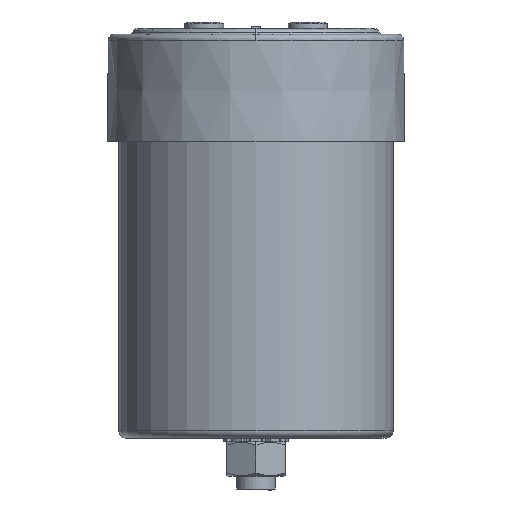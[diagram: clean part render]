
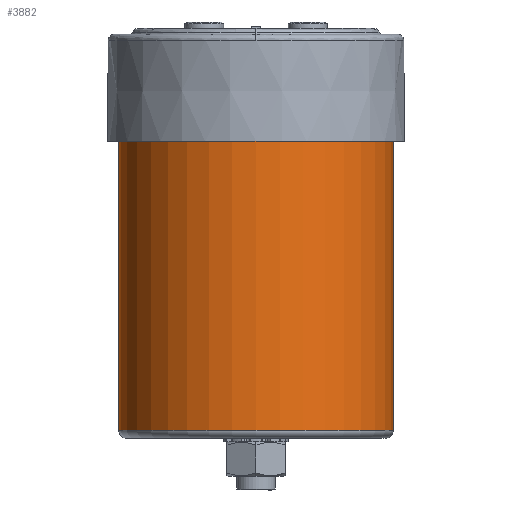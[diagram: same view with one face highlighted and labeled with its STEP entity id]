
A CAD part, left-side view. The second image highlights one B-rep face of the part: STEP entity #3882.
In plain terms, the highlighted cylindrical face has radius 42.5 mm (diameter 85 mm), a partial arc.
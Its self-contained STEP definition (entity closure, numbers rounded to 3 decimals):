
#376 = DIRECTION ( 'NONE',  ( 0., 0., 1. ) ) ;
#1580 = VERTEX_POINT ( 'NONE', #1766 ) ;
#1623 = FACE_OUTER_BOUND ( 'NONE', #12790, .T. ) ;
#1766 = CARTESIAN_POINT ( 'NONE',  ( 0., 42.5, -117.5 ) ) ;
#2191 = DIRECTION ( 'NONE',  ( 0., -1., 0. ) ) ;
#2882 = CARTESIAN_POINT ( 'NONE',  ( 0., 0., 0. ) ) ;
#2895 = VERTEX_POINT ( 'NONE', #7626 ) ;
#3882 = ADVANCED_FACE ( 'NONE', ( #1623 ), #18841, .T. ) ;
#4214 = VECTOR ( 'NONE', #6673, 1000. ) ;
#4735 = EDGE_CURVE ( 'NONE', #1580, #2895, #15581, .T. ) ;
#5265 = CARTESIAN_POINT ( 'NONE',  ( 0., -42.5, -120. ) ) ;
#5472 = VERTEX_POINT ( 'NONE', #11418 ) ;
#6234 = CARTESIAN_POINT ( 'NONE',  ( 0., 0., -117.5 ) ) ;
#6303 = LINE ( 'NONE', #13954, #4214 ) ;
#6673 = DIRECTION ( 'NONE',  ( 0., 0., -1. ) ) ;
#6695 = LINE ( 'NONE', #5265, #12536 ) ;
#7626 = CARTESIAN_POINT ( 'NONE',  ( 0., -42.5, -117.5 ) ) ;
#7943 = DIRECTION ( 'NONE',  ( 0., 0., -1. ) ) ;
#8999 = DIRECTION ( 'NONE',  ( 0., 1., 0. ) ) ;
#9271 = ORIENTED_EDGE ( 'NONE', *, *, #11625, .T. ) ;
#9293 = AXIS2_PLACEMENT_3D ( 'NONE', #2882, #16338, #8999 ) ;
#9671 = AXIS2_PLACEMENT_3D ( 'NONE', #9673, #7943, #2191 ) ;
#9673 = CARTESIAN_POINT ( 'NONE',  ( 0., 0., -120. ) ) ;
#10792 = ORIENTED_EDGE ( 'NONE', *, *, #15896, .F. ) ;
#10987 = ORIENTED_EDGE ( 'NONE', *, *, #4735, .T. ) ;
#11418 = CARTESIAN_POINT ( 'NONE',  ( 0., 42.5, 0. ) ) ;
#11625 = EDGE_CURVE ( 'NONE', #5472, #1580, #6303, .T. ) ;
#12536 = VECTOR ( 'NONE', #18409, 1000. ) ;
#12753 = CARTESIAN_POINT ( 'NONE',  ( 0., -42.5, 0. ) ) ;
#12790 = EDGE_LOOP ( 'NONE', ( #13422, #9271, #10987, #10792 ) ) ;
#13422 = ORIENTED_EDGE ( 'NONE', *, *, #14859, .F. ) ;
#13954 = CARTESIAN_POINT ( 'NONE',  ( 0., 42.5, -120. ) ) ;
#14859 = EDGE_CURVE ( 'NONE', #5472, #17756, #18366, .T. ) ;
#15581 = CIRCLE ( 'NONE', #16188, 42.5 ) ;
#15896 = EDGE_CURVE ( 'NONE', #17756, #2895, #6695, .T. ) ;
#16188 = AXIS2_PLACEMENT_3D ( 'NONE', #6234, #376, #18128 ) ;
#16338 = DIRECTION ( 'NONE',  ( 0., 0., 1. ) ) ;
#17756 = VERTEX_POINT ( 'NONE', #12753 ) ;
#18128 = DIRECTION ( 'NONE',  ( 0., -1., 0. ) ) ;
#18366 = CIRCLE ( 'NONE', #9293, 42.5 ) ;
#18409 = DIRECTION ( 'NONE',  ( 0., 0., -1. ) ) ;
#18841 = CYLINDRICAL_SURFACE ( 'NONE', #9671, 42.5 ) ;
